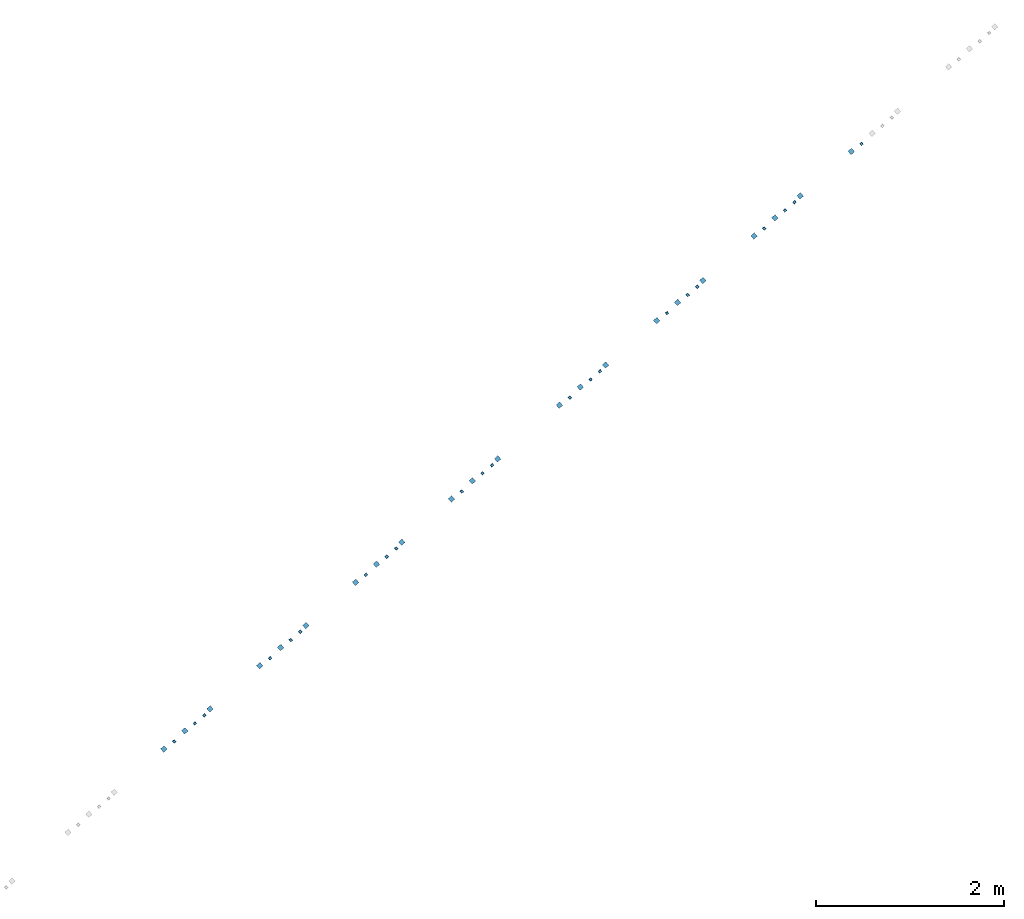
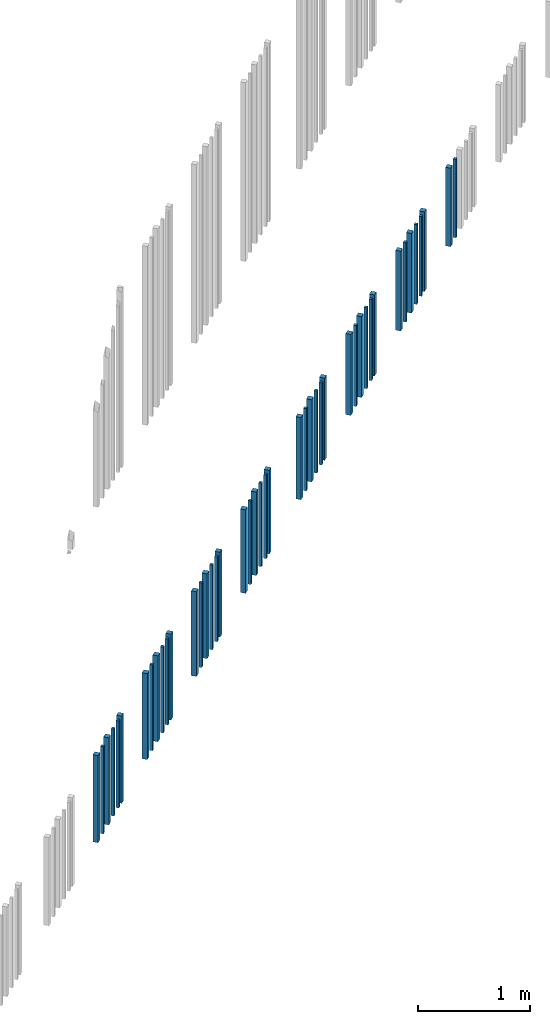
# One storey, part 91 of 124: 44 walls.
"""IFC2X3 building model written with IfcOpenShell, lengths in millimetres."""

from ifc_helpers import new_model, entity, si_unit, converted_unit, derived_unit, money_unit, direction, frame, origin_with_axes, place, context, subcontext, project, spatial, faceted_brep, material, type_object, element, save


model = new_model("IFC2X3")

# Units and contexts
model_context = context("Model", 3, precision=1e-05, world=origin_with_axes(), true_north=direction((0.0, 1.0)))
body_context = subcontext(model_context, "Body", "Model", "MODEL_VIEW")
ifc_project = project(units=[si_unit("LENGTHUNIT", "METRE", prefix="MILLI"), si_unit("AREAUNIT", "SQUARE_METRE"), si_unit("VOLUMEUNIT", "CUBIC_METRE"), converted_unit("PLANEANGLEUNIT", "DEGREE", entity("IfcPlaneAngleMeasure", 0.0174532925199), si_unit("PLANEANGLEUNIT", "RADIAN"), dimensions=[0, 0, 0, 0, 0, 0, 0]), si_unit("SOLIDANGLEUNIT", "STERADIAN"), money_unit("EUR"), converted_unit("TIMEUNIT", "Year", entity("IfcTimeMeasure", 31556926.0), si_unit("TIMEUNIT", "SECOND"), dimensions=[0, 0, 1, 0, 0, 0, 0]), si_unit("MASSUNIT", "GRAM", prefix="KILO"), si_unit("THERMODYNAMICTEMPERATUREUNIT", "DEGREE_CELSIUS"), si_unit("LUMINOUSINTENSITYUNIT", "LUMEN"), si_unit("ENERGYUNIT", "JOULE", prefix="MEGA"), derived_unit("THERMALCONDUCTANCEUNIT", [(si_unit("POWERUNIT", "WATT"), 1), (si_unit("LENGTHUNIT", "METRE"), -1), (si_unit("THERMODYNAMICTEMPERATUREUNIT", "KELVIN"), -1)]), derived_unit("SPECIFICHEATCAPACITYUNIT", [(si_unit("ENERGYUNIT", "JOULE"), 1), (si_unit("MASSUNIT", "GRAM", prefix="KILO"), -1), (si_unit("THERMODYNAMICTEMPERATUREUNIT", "KELVIN"), -1)]), derived_unit("MASSDENSITYUNIT", [(si_unit("MASSUNIT", "GRAM", prefix="KILO"), 1), (si_unit("VOLUMEUNIT", "CUBIC_METRE"), -1)])], contexts=[model_context])

# Site, building, storey
site_placement = place(None, origin_with_axes())
site = spatial("IfcSite", under=ifc_project, at=site_placement, Name="Site", CompositionType="ELEMENT")
building_placement = place(site_placement, origin_with_axes())
building = spatial("IfcBuilding", under=site, at=building_placement, Name="Building", CompositionType="ELEMENT")
storey_placement = place(building_placement, frame((0.0, 0.0, -1615.0), z_axis=(0.0, 0.0, 1.0), x_axis=(1.0, 0.0, 0.0)))
storey = spatial("IfcBuildingStorey", under=building, at=storey_placement, Name="0  korrus", CompositionType="ELEMENT", Elevation=-1615.0)

# Walls
ifc_material = material(Name="Site specified")
wall_type = type_object("IfcWallType", Name="Puitfassaadi ribistik", PredefinedType="NOTDEFINED")
wall_1_placement = place(storey_placement, frame((131601.831054, 84436.1421931, 5951.42184627), z_axis=(0.0, 0.0, 1.0), x_axis=(0.754709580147, 0.656059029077, 0.0)))
element("IfcWall", 1, at=wall_1_placement, inside=storey, type_object=wall_type, material=ifc_material, Name="Site specified", context=body_context, shape_type="Brep", body=[
    faceted_brep([(25.0, 25.0, 869.578153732), (25.0, 25.0, 0.0), (-25.0, 25.0, 0.0), (-25.0, 25.0, 869.578153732), (25.0, -25.0, 869.578153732), (25.0, -25.0, 0.0), (-25.0, -25.0, 0.0), (-25.0, -25.0, 869.578153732)], [[[0, 1, 2, 3]], [[4, 5, 1, 0]], [[2, 1, 5, 6]], [[3, 2, 6, 7]], [[4, 0, 3, 7]], [[7, 6, 5, 4]]]),
])
wall_2_placement = place(storey_placement, frame((131710.935376, 84516.4099906, 5951.42184627), z_axis=(0.0, 0.0, 1.0), x_axis=(0.754709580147, 0.656059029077, 0.0)))
element("IfcWall", 2, at=wall_2_placement, inside=storey, type_object=wall_type, material=ifc_material, Name="Site specified", context=body_context, shape_type="Brep", body=[
    faceted_brep([(14.0, 14.0, 869.578153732), (14.0, 14.0, 0.0), (-14.0, 14.0, 0.0), (-14.0, 14.0, 869.578153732), (14.0, -14.0, 869.578153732), (14.0, -14.0, 0.0), (-14.0, -14.0, 0.0), (-14.0, -14.0, 869.578153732)], [[[0, 1, 2, 3]], [[4, 5, 1, 0]], [[2, 1, 5, 6]], [[3, 2, 6, 7]], [[4, 0, 3, 7]], [[7, 6, 5, 4]]]),
])
wall_3_placement = place(storey_placement, frame((129643.031127, 82718.8082509, 5924.73924498), z_axis=(0.0, 0.0, 1.0), x_axis=(0.754709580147, 0.656059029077, 0.0)))
element("IfcWall", 3, at=wall_3_placement, inside=storey, type_object=wall_type, material=ifc_material, Name="Site specified", context=body_context, shape_type="Brep", body=[
    faceted_brep([(14.0, 14.0, 896.260755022), (14.0, 14.0, 0.0), (-14.0, 14.0, 0.0), (-14.0, 14.0, 896.260755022), (14.0, -14.0, 896.260755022), (14.0, -14.0, 0.0), (-14.0, -14.0, 0.0), (-14.0, -14.0, 896.260755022)], [[[0, 1, 2, 3]], [[4, 5, 1, 0]], [[2, 1, 5, 6]], [[3, 2, 6, 7]], [[4, 0, 3, 7]], [[7, 6, 5, 4]]]),
])
for number, where, z_axis, x_axis, name in (
    (4, (125820.75992, 79410.7337248, 5870.49944193), (0.0, 0.0, 1.0), (0.754709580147, 0.656059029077, 0.0), "Site specified"),
    (5, (125552.079058, 79177.1730147, 5870.49944193), (0.0, 0.0, 1.0), (0.754709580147, 0.656059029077, 0.0), "Site specified"),
):
    element("IfcWall", number, at=place(storey_placement, frame(where, z_axis=z_axis, x_axis=x_axis)), inside=storey, type_object=wall_type, material=ifc_material, Name=name, context=body_context, shape_type="Brep", body=[
        faceted_brep([(25.0, 25.0, 950.500558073), (25.0, 25.0, 0.0), (-25.0, 25.0, 0.0), (-25.0, 25.0, 950.500558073), (25.0, -25.0, 950.500558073), (25.0, -25.0, 0.0), (-25.0, -25.0, 0.0), (-25.0, -25.0, 950.500558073)], [[[0, 1, 2, 3]], [[4, 5, 1, 0]], [[2, 1, 5, 6]], [[3, 2, 6, 7]], [[4, 0, 3, 7]], [[7, 6, 5, 4]]]),
    ])
wall_4_placement = place(storey_placement, frame((131823.715669, 84629.0235462, 5951.42184627), z_axis=(0.0, 0.0, 1.0), x_axis=(0.754709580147, 0.656059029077, 0.0)))
element("IfcWall", 6, at=wall_4_placement, inside=storey, type_object=wall_type, material=ifc_material, Name="Site specified", context=body_context, shape_type="Brep", body=[
    faceted_brep([(25.0, 25.0, 869.578153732), (25.0, 25.0, 0.0), (-25.0, 25.0, 0.0), (-25.0, 25.0, 869.578153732), (25.0, -25.0, 869.578153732), (25.0, -25.0, 0.0), (-25.0, -25.0, 0.0), (-25.0, -25.0, 869.578153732)], [[[0, 1, 2, 3]], [[4, 5, 1, 0]], [[2, 1, 5, 6]], [[3, 2, 6, 7]], [[4, 0, 3, 7]], [[7, 6, 5, 4]]]),
])
wall_5_placement = place(storey_placement, frame((132744.887501, 85415.2108604, 5964.67565034), z_axis=(0.0, 0.0, 1.0), x_axis=(0.754709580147, 0.656059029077, 0.0)))
element("IfcWall", 7, at=wall_5_placement, inside=storey, type_object=wall_type, material=ifc_material, Name="Site specified", context=body_context, shape_type="Brep", body=[
    faceted_brep([(14.0, 14.0, 856.32434966), (14.0, 14.0, 0.0), (-14.0, 14.0, 0.0), (-14.0, 14.0, 856.32434966), (14.0, -14.0, 856.32434966), (14.0, -14.0, 0.0), (-14.0, -14.0, 0.0), (-14.0, -14.0, 856.32434966)], [[[0, 1, 2, 3]], [[4, 5, 1, 0]], [[2, 1, 5, 6]], [[3, 2, 6, 7]], [[4, 0, 3, 7]], [[7, 6, 5, 4]]]),
])
wall_6_placement = place(storey_placement, frame((132635.783179, 85334.943063, 5964.67565034), z_axis=(0.0, 0.0, 1.0), x_axis=(0.754709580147, 0.656059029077, 0.0)))
element("IfcWall", 8, at=wall_6_placement, inside=storey, type_object=wall_type, material=ifc_material, Name="Site specified", context=body_context, shape_type="Brep", body=[
    faceted_brep([(25.0, 25.0, 856.32434966), (25.0, 25.0, 0.0), (-25.0, 25.0, 0.0), (-25.0, 25.0, 856.32434966), (25.0, -25.0, 856.32434966), (25.0, -25.0, 0.0), (-25.0, -25.0, 0.0), (-25.0, -25.0, 856.32434966)], [[[0, 1, 2, 3]], [[4, 5, 1, 0]], [[2, 1, 5, 6]], [[3, 2, 6, 7]], [[4, 0, 3, 7]], [[7, 6, 5, 4]]]),
])
wall_7_placement = place(storey_placement, frame((132092.396531, 84862.5842564, 5951.42184627), z_axis=(0.0, 0.0, 1.0), x_axis=(0.754709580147, 0.656059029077, 0.0)))
element("IfcWall", 9, at=wall_7_placement, inside=storey, type_object=wall_type, material=ifc_material, Name="Site specified", context=body_context, shape_type="Brep", body=[
    faceted_brep([(25.0, 25.0, 869.578153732), (25.0, 25.0, 0.0), (-25.0, 25.0, 0.0), (-25.0, 25.0, 869.578153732), (25.0, -25.0, 869.578153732), (25.0, -25.0, 0.0), (-25.0, -25.0, 0.0), (-25.0, -25.0, 869.578153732)], [[[0, 1, 2, 3]], [[4, 5, 1, 0]], [[2, 1, 5, 6]], [[3, 2, 6, 7]], [[4, 0, 3, 7]], [[7, 6, 5, 4]]]),
])
for number, where, z_axis, x_axis, name in (
    (10, (131932.065262, 84708.6352671, 5951.42184627), (0.0, 0.0, 1.0), (0.754709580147, 0.656059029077, 0.0), "Site specified"),
    (11, (132032.441635, 84795.8911174, 5951.42184627), (0.0, 0.0, 1.0), (0.754709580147, 0.656059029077, 0.0), "Site specified"),
):
    element("IfcWall", number, at=place(storey_placement, frame(where, z_axis=z_axis, x_axis=x_axis)), inside=storey, type_object=wall_type, material=ifc_material, Name=name, context=body_context, shape_type="Brep", body=[
        faceted_brep([(14.0, 14.0, 869.578153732), (14.0, 14.0, 0.0), (-14.0, 14.0, 0.0), (-14.0, 14.0, 869.578153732), (14.0, -14.0, 869.578153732), (14.0, -14.0, 0.0), (-14.0, -14.0, 0.0), (-14.0, -14.0, 869.578153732)], [[[0, 1, 2, 3]], [[4, 5, 1, 0]], [[2, 1, 5, 6]], [[3, 2, 6, 7]], [[4, 0, 3, 7]], [[7, 6, 5, 4]]]),
    ])
wall_8_placement = place(storey_placement, frame((125760.805024, 79344.0405859, 5870.49944193), z_axis=(0.0, 0.0, 1.0), x_axis=(0.754709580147, 0.656059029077, 0.0)))
element("IfcWall", 12, at=wall_8_placement, inside=storey, type_object=wall_type, material=ifc_material, Name="Site specified", context=body_context, shape_type="Brep", body=[
    faceted_brep([(14.0, 14.0, 950.500558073), (14.0, 14.0, 0.0), (-14.0, 14.0, 0.0), (-14.0, 14.0, 950.500558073), (14.0, -14.0, 950.500558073), (14.0, -14.0, 0.0), (-14.0, -14.0, 0.0), (-14.0, -14.0, 950.500558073)], [[[0, 1, 2, 3]], [[4, 5, 1, 0]], [[2, 1, 5, 6]], [[3, 2, 6, 7]], [[4, 0, 3, 7]], [[7, 6, 5, 4]]]),
])
wall_9_placement = place(storey_placement, frame((125330.194443, 78984.2916616, 5870.49944193), z_axis=(0.0, 0.0, 1.0), x_axis=(0.754709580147, 0.656059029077, 0.0)))
element("IfcWall", 13, at=wall_9_placement, inside=storey, type_object=wall_type, material=ifc_material, Name="Site specified", context=body_context, shape_type="Brep", body=[
    faceted_brep([(25.0, 25.0, 950.500558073), (25.0, 25.0, 0.0), (-25.0, 25.0, 0.0), (-25.0, 25.0, 950.500558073), (25.0, -25.0, 950.500558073), (25.0, -25.0, 0.0), (-25.0, -25.0, 0.0), (-25.0, -25.0, 950.500558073)], [[[0, 1, 2, 3]], [[4, 5, 1, 0]], [[2, 1, 5, 6]], [[3, 2, 6, 7]], [[4, 0, 3, 7]], [[7, 6, 5, 4]]]),
])
for number, where, z_axis, x_axis, name in (
    (14, (125439.298765, 79064.559459, 5870.49944193), (0.0, 0.0, 1.0), (0.754709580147, 0.656059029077, 0.0), "Site specified"),
    (15, (125660.42865, 79256.7847356, 5870.49944193), (0.0, 0.0, 1.0), (0.754709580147, 0.656059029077, 0.0), "Site specified"),
):
    element("IfcWall", number, at=place(storey_placement, frame(where, z_axis=z_axis, x_axis=x_axis)), inside=storey, type_object=wall_type, material=ifc_material, Name=name, context=body_context, shape_type="Brep", body=[
        faceted_brep([(14.0, 14.0, 950.500558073), (14.0, 14.0, 0.0), (-14.0, 14.0, 0.0), (-14.0, 14.0, 950.500558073), (14.0, -14.0, 950.500558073), (14.0, -14.0, 0.0), (-14.0, -14.0, 0.0), (-14.0, -14.0, 950.500558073)], [[[0, 1, 2, 3]], [[4, 5, 1, 0]], [[2, 1, 5, 6]], [[3, 2, 6, 7]], [[4, 0, 3, 7]], [[7, 6, 5, 4]]]),
    ])
wall_10_placement = place(storey_placement, frame((128608.652857, 81834.2120826, 5909.93891712), z_axis=(0.0, 0.0, 1.0), x_axis=(0.754709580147, 0.656059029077, 0.0)))
element("IfcWall", 16, at=wall_10_placement, inside=storey, type_object=wall_type, material=ifc_material, Name="Site specified", context=body_context, shape_type="Brep", body=[
    faceted_brep([(25.0, 25.0, 911.061082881), (25.0, 25.0, 0.0), (-25.0, 25.0, 0.0), (-25.0, 25.0, 911.061082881), (25.0, -25.0, 911.061082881), (25.0, -25.0, 0.0), (-25.0, -25.0, 0.0), (-25.0, -25.0, 911.061082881)], [[[0, 1, 2, 3]], [[4, 5, 1, 0]], [[2, 1, 5, 6]], [[3, 2, 6, 7]], [[4, 0, 3, 7]], [[7, 6, 5, 4]]]),
])
wall_11_placement = place(storey_placement, frame((128717.00245, 81913.8238035, 5909.93891712), z_axis=(0.0, 0.0, 1.0), x_axis=(0.754709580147, 0.656059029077, 0.0)))
element("IfcWall", 17, at=wall_11_placement, inside=storey, type_object=wall_type, material=ifc_material, Name="Site specified", context=body_context, shape_type="Brep", body=[
    faceted_brep([(14.0, 14.0, 911.061082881), (14.0, 14.0, 0.0), (-14.0, 14.0, 0.0), (-14.0, 14.0, 911.061082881), (14.0, -14.0, 911.061082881), (14.0, -14.0, 0.0), (-14.0, -14.0, 0.0), (-14.0, -14.0, 911.061082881)], [[[0, 1, 2, 3]], [[4, 5, 1, 0]], [[2, 1, 5, 6]], [[3, 2, 6, 7]], [[4, 0, 3, 7]], [[7, 6, 5, 4]]]),
])
for number, where, z_axis, x_axis, name in (
    (18, (128386.768243, 81641.3307295, 5909.93891712), (0.0, 0.0, 1.0), (0.754709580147, 0.656059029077, 0.0), "Site specified"),
    (19, (128877.33372, 82067.7727927, 5909.93891712), (0.0, 0.0, 1.0), (0.754709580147, 0.656059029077, 0.0), "Site specified"),
):
    element("IfcWall", number, at=place(storey_placement, frame(where, z_axis=z_axis, x_axis=x_axis)), inside=storey, type_object=wall_type, material=ifc_material, Name=name, context=body_context, shape_type="Brep", body=[
        faceted_brep([(25.0, 25.0, 911.061082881), (25.0, 25.0, 0.0), (-25.0, 25.0, 0.0), (-25.0, 25.0, 911.061082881), (25.0, -25.0, 911.061082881), (25.0, -25.0, 0.0), (-25.0, -25.0, 0.0), (-25.0, -25.0, 911.061082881)], [[[0, 1, 2, 3]], [[4, 5, 1, 0]], [[2, 1, 5, 6]], [[3, 2, 6, 7]], [[4, 0, 3, 7]], [[7, 6, 5, 4]]]),
    ])
for number, where, z_axis, x_axis, name in (
    (20, (128817.378823, 82001.0796538, 5909.93891712), (0.0, 0.0, 1.0), (0.754709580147, 0.656059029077, 0.0), "Site specified"),
    (21, (128495.872565, 81721.5985269, 5909.93891712), (0.0, 0.0, 1.0), (0.754709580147, 0.656059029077, 0.0), "Site specified"),
):
    element("IfcWall", number, at=place(storey_placement, frame(where, z_axis=z_axis, x_axis=x_axis)), inside=storey, type_object=wall_type, material=ifc_material, Name=name, context=body_context, shape_type="Brep", body=[
        faceted_brep([(14.0, 14.0, 911.061082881), (14.0, 14.0, 0.0), (-14.0, 14.0, 0.0), (-14.0, 14.0, 911.061082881), (14.0, -14.0, 911.061082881), (14.0, -14.0, 0.0), (-14.0, -14.0, 0.0), (-14.0, -14.0, 911.061082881)], [[[0, 1, 2, 3]], [[4, 5, 1, 0]], [[2, 1, 5, 6]], [[3, 2, 6, 7]], [[4, 0, 3, 7]], [[7, 6, 5, 4]]]),
    ])
wall_12_placement = place(storey_placement, frame((126349.052376, 79869.9713508, 5883.64367736), z_axis=(0.0, 0.0, 1.0), x_axis=(0.754709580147, 0.656059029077, 0.0)))
element("IfcWall", 22, at=wall_12_placement, inside=storey, type_object=wall_type, material=ifc_material, Name="Site specified", context=body_context, shape_type="Brep", body=[
    faceted_brep([(25.0, 25.0, 937.356322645), (25.0, 25.0, 0.0), (-25.0, 25.0, 0.0), (-25.0, 25.0, 937.356322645), (25.0, -25.0, 937.356322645), (25.0, -25.0, 0.0), (-25.0, -25.0, 0.0), (-25.0, -25.0, 937.356322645)], [[[0, 1, 2, 3]], [[4, 5, 1, 0]], [[2, 1, 5, 6]], [[3, 2, 6, 7]], [[4, 0, 3, 7]], [[7, 6, 5, 4]]]),
])
wall_13_placement = place(storey_placement, frame((130998.48951, 83897.0902476, 5938.08214756), z_axis=(0.0, 0.0, 1.0), x_axis=(0.754709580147, 0.656059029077, 0.0)))
element("IfcWall", 23, at=wall_13_placement, inside=storey, type_object=wall_type, material=ifc_material, Name="Site specified", context=body_context, shape_type="Brep", body=[
    faceted_brep([(14.0, 14.0, 882.917852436), (14.0, 14.0, 0.0), (-14.0, 14.0, 0.0), (-14.0, 14.0, 882.917852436), (14.0, -14.0, 882.917852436), (14.0, -14.0, 0.0), (-14.0, -14.0, 0.0), (-14.0, -14.0, 882.917852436)], [[[0, 1, 2, 3]], [[4, 5, 1, 0]], [[2, 1, 5, 6]], [[3, 2, 6, 7]], [[4, 0, 3, 7]], [[7, 6, 5, 4]]]),
])
for number, where, z_axis, x_axis, name in (
    (24, (126458.156698, 79950.2391483, 5883.64367736), (0.0, 0.0, 1.0), (0.754709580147, 0.656059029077, 0.0), "Site specified"),
    (25, (126779.662957, 80229.7202751, 5883.64367736), (0.0, 0.0, 1.0), (0.754709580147, 0.656059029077, 0.0), "Site specified"),
    (26, (126679.286584, 80142.4644248, 5883.64367736), (0.0, 0.0, 1.0), (0.754709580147, 0.656059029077, 0.0), "Site specified"),
):
    element("IfcWall", number, at=place(storey_placement, frame(where, z_axis=z_axis, x_axis=x_axis)), inside=storey, type_object=wall_type, material=ifc_material, Name=name, context=body_context, shape_type="Brep", body=[
        faceted_brep([(14.0, 14.0, 937.356322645), (14.0, 14.0, 0.0), (-14.0, 14.0, 0.0), (-14.0, 14.0, 937.356322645), (14.0, -14.0, 937.356322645), (14.0, -14.0, 0.0), (-14.0, -14.0, 0.0), (-14.0, -14.0, 937.356322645)], [[[0, 1, 2, 3]], [[4, 5, 1, 0]], [[2, 1, 5, 6]], [[3, 2, 6, 7]], [[4, 0, 3, 7]], [[7, 6, 5, 4]]]),
    ])
for number, where, z_axis, x_axis, name in (
    (27, (126839.617853, 80296.4134141, 5883.64367736), (0.0, 0.0, 1.0), (0.754709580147, 0.656059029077, 0.0), "Site specified"),
    (28, (126570.936991, 80062.8527039, 5883.64367736), (0.0, 0.0, 1.0), (0.754709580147, 0.656059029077, 0.0), "Site specified"),
):
    element("IfcWall", number, at=place(storey_placement, frame(where, z_axis=z_axis, x_axis=x_axis)), inside=storey, type_object=wall_type, material=ifc_material, Name=name, context=body_context, shape_type="Brep", body=[
        faceted_brep([(25.0, 25.0, 937.356322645), (25.0, 25.0, 0.0), (-25.0, 25.0, 0.0), (-25.0, 25.0, 937.356322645), (25.0, -25.0, 937.356322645), (25.0, -25.0, 0.0), (-25.0, -25.0, 0.0), (-25.0, -25.0, 937.356322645)], [[[0, 1, 2, 3]], [[4, 5, 1, 0]], [[2, 1, 5, 6]], [[3, 2, 6, 7]], [[4, 0, 3, 7]], [[7, 6, 5, 4]]]),
    ])
wall_14_placement = place(storey_placement, frame((129864.161012, 82911.0335275, 5924.73924498), z_axis=(0.0, 0.0, 1.0), x_axis=(0.754709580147, 0.656059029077, 0.0)))
element("IfcWall", 29, at=wall_14_placement, inside=storey, type_object=wall_type, material=ifc_material, Name="Site specified", context=body_context, shape_type="Brep", body=[
    faceted_brep([(14.0, 14.0, 896.260755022), (14.0, 14.0, 0.0), (-14.0, 14.0, 0.0), (-14.0, 14.0, 896.260755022), (14.0, -14.0, 896.260755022), (14.0, -14.0, 0.0), (-14.0, -14.0, 0.0), (-14.0, -14.0, 896.260755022)], [[[0, 1, 2, 3]], [[4, 5, 1, 0]], [[2, 1, 5, 6]], [[3, 2, 6, 7]], [[4, 0, 3, 7]], [[7, 6, 5, 4]]]),
])
wall_15_placement = place(storey_placement, frame((131058.444406, 83963.7833866, 5938.08214756), z_axis=(0.0, 0.0, 1.0), x_axis=(0.754709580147, 0.656059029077, 0.0)))
element("IfcWall", 30, at=wall_15_placement, inside=storey, type_object=wall_type, material=ifc_material, Name="Site specified", context=body_context, shape_type="Brep", body=[
    faceted_brep([(25.0, 25.0, 882.917852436), (25.0, 25.0, 0.0), (-25.0, 25.0, 0.0), (-25.0, 25.0, 882.917852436), (25.0, -25.0, 882.917852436), (25.0, -25.0, 0.0), (-25.0, -25.0, 0.0), (-25.0, -25.0, 882.917852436)], [[[0, 1, 2, 3]], [[4, 5, 1, 0]], [[2, 1, 5, 6]], [[3, 2, 6, 7]], [[4, 0, 3, 7]], [[7, 6, 5, 4]]]),
])
wall_16_placement = place(storey_placement, frame((127798.52089, 81115.3999644, 5896.79242539), z_axis=(0.0, 0.0, 1.0), x_axis=(0.754709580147, 0.656059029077, 0.0)))
element("IfcWall", 31, at=wall_16_placement, inside=storey, type_object=wall_type, material=ifc_material, Name="Site specified", context=body_context, shape_type="Brep", body=[
    faceted_brep([(14.0, 14.0, 924.207574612), (14.0, 14.0, 0.0), (-14.0, 14.0, 0.0), (-14.0, 14.0, 924.207574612), (14.0, -14.0, 924.207574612), (14.0, -14.0, 0.0), (-14.0, -14.0, 0.0), (-14.0, -14.0, 924.207574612)], [[[0, 1, 2, 3]], [[4, 5, 1, 0]], [[2, 1, 5, 6]], [[3, 2, 6, 7]], [[4, 0, 3, 7]], [[7, 6, 5, 4]]]),
])
wall_17_placement = place(storey_placement, frame((127367.910309, 80755.6510401, 5896.79242539), z_axis=(0.0, 0.0, 1.0), x_axis=(0.754709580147, 0.656059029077, 0.0)))
element("IfcWall", 32, at=wall_17_placement, inside=storey, type_object=wall_type, material=ifc_material, Name="Site specified", context=body_context, shape_type="Brep", body=[
    faceted_brep([(25.0, 25.0, 924.207574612), (25.0, 25.0, 0.0), (-25.0, 25.0, 0.0), (-25.0, 25.0, 924.207574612), (25.0, -25.0, 924.207574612), (25.0, -25.0, 0.0), (-25.0, -25.0, 0.0), (-25.0, -25.0, 924.207574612)], [[[0, 1, 2, 3]], [[4, 5, 1, 0]], [[2, 1, 5, 6]], [[3, 2, 6, 7]], [[4, 0, 3, 7]], [[7, 6, 5, 4]]]),
])
for number, where, z_axis, x_axis, name in (
    (33, (127477.014632, 80835.9188375, 5896.79242539), (0.0, 0.0, 1.0), (0.754709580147, 0.656059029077, 0.0), "Site specified"),
    (34, (127698.144517, 81028.1441141, 5896.79242539), (0.0, 0.0, 1.0), (0.754709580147, 0.656059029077, 0.0), "Site specified"),
):
    element("IfcWall", number, at=place(storey_placement, frame(where, z_axis=z_axis, x_axis=x_axis)), inside=storey, type_object=wall_type, material=ifc_material, Name=name, context=body_context, shape_type="Brep", body=[
        faceted_brep([(14.0, 14.0, 924.207574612), (14.0, 14.0, 0.0), (-14.0, 14.0, 0.0), (-14.0, 14.0, 924.207574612), (14.0, -14.0, 924.207574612), (14.0, -14.0, 0.0), (-14.0, -14.0, 0.0), (-14.0, -14.0, 924.207574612)], [[[0, 1, 2, 3]], [[4, 5, 1, 0]], [[2, 1, 5, 6]], [[3, 2, 6, 7]], [[4, 0, 3, 7]], [[7, 6, 5, 4]]]),
    ])
wall_18_placement = place(storey_placement, frame((130567.878929, 83537.3413233, 5938.08214756), z_axis=(0.0, 0.0, 1.0), x_axis=(0.754709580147, 0.656059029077, 0.0)))
element("IfcWall", 35, at=wall_18_placement, inside=storey, type_object=wall_type, material=ifc_material, Name="Site specified", context=body_context, shape_type="Brep", body=[
    faceted_brep([(25.0, 25.0, 882.917852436), (25.0, 25.0, 0.0), (-25.0, 25.0, 0.0), (-25.0, 25.0, 882.917852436), (25.0, -25.0, 882.917852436), (25.0, -25.0, 0.0), (-25.0, -25.0, 0.0), (-25.0, -25.0, 882.917852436)], [[[0, 1, 2, 3]], [[4, 5, 1, 0]], [[2, 1, 5, 6]], [[3, 2, 6, 7]], [[4, 0, 3, 7]], [[7, 6, 5, 4]]]),
])
wall_19_placement = place(storey_placement, frame((130898.113137, 83809.8343973, 5938.08214756), z_axis=(0.0, 0.0, 1.0), x_axis=(0.754709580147, 0.656059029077, 0.0)))
element("IfcWall", 36, at=wall_19_placement, inside=storey, type_object=wall_type, material=ifc_material, Name="Site specified", context=body_context, shape_type="Brep", body=[
    faceted_brep([(14.0, 14.0, 882.917852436), (14.0, 14.0, 0.0), (-14.0, 14.0, 0.0), (-14.0, 14.0, 882.917852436), (14.0, -14.0, 882.917852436), (14.0, -14.0, 0.0), (-14.0, -14.0, 0.0), (-14.0, -14.0, 882.917852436)], [[[0, 1, 2, 3]], [[4, 5, 1, 0]], [[2, 1, 5, 6]], [[3, 2, 6, 7]], [[4, 0, 3, 7]], [[7, 6, 5, 4]]]),
])
wall_20_placement = place(storey_placement, frame((129755.811419, 82831.4218066, 5924.73924498), z_axis=(0.0, 0.0, 1.0), x_axis=(0.754709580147, 0.656059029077, 0.0)))
element("IfcWall", 37, at=wall_20_placement, inside=storey, type_object=wall_type, material=ifc_material, Name="Site specified", context=body_context, shape_type="Brep", body=[
    faceted_brep([(25.0, 25.0, 896.260755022), (25.0, 25.0, 0.0), (-25.0, 25.0, 0.0), (-25.0, 25.0, 896.260755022), (25.0, -25.0, 896.260755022), (25.0, -25.0, 0.0), (-25.0, -25.0, 0.0), (-25.0, -25.0, 896.260755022)], [[[0, 1, 2, 3]], [[4, 5, 1, 0]], [[2, 1, 5, 6]], [[3, 2, 6, 7]], [[4, 0, 3, 7]], [[7, 6, 5, 4]]]),
])
wall_21_placement = place(storey_placement, frame((127858.475786, 81182.0931033, 5896.79242539), z_axis=(0.0, 0.0, 1.0), x_axis=(0.754709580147, 0.656059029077, 0.0)))
element("IfcWall", 38, at=wall_21_placement, inside=storey, type_object=wall_type, material=ifc_material, Name="Site specified", context=body_context, shape_type="Brep", body=[
    faceted_brep([(25.0, 25.0, 924.207574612), (25.0, 25.0, 0.0), (-25.0, 25.0, 0.0), (-25.0, 25.0, 924.207574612), (25.0, -25.0, 924.207574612), (25.0, -25.0, 0.0), (-25.0, -25.0, 0.0), (-25.0, -25.0, 924.207574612)], [[[0, 1, 2, 3]], [[4, 5, 1, 0]], [[2, 1, 5, 6]], [[3, 2, 6, 7]], [[4, 0, 3, 7]], [[7, 6, 5, 4]]]),
])
wall_22_placement = place(storey_placement, frame((130789.763544, 83730.2226764, 5938.08214756), z_axis=(0.0, 0.0, 1.0), x_axis=(0.754709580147, 0.656059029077, 0.0)))
element("IfcWall", 39, at=wall_22_placement, inside=storey, type_object=wall_type, material=ifc_material, Name="Site specified", context=body_context, shape_type="Brep", body=[
    faceted_brep([(25.0, 25.0, 882.917852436), (25.0, 25.0, 0.0), (-25.0, 25.0, 0.0), (-25.0, 25.0, 882.917852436), (25.0, -25.0, 882.917852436), (25.0, -25.0, 0.0), (-25.0, -25.0, 0.0), (-25.0, -25.0, 882.917852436)], [[[0, 1, 2, 3]], [[4, 5, 1, 0]], [[2, 1, 5, 6]], [[3, 2, 6, 7]], [[4, 0, 3, 7]], [[7, 6, 5, 4]]]),
])
wall_23_placement = place(storey_placement, frame((130024.492282, 83064.9825167, 5924.73924498), z_axis=(0.0, 0.0, 1.0), x_axis=(0.754709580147, 0.656059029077, 0.0)))
element("IfcWall", 40, at=wall_23_placement, inside=storey, type_object=wall_type, material=ifc_material, Name="Site specified", context=body_context, shape_type="Brep", body=[
    faceted_brep([(25.0, 25.0, 896.260755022), (25.0, 25.0, 0.0), (-25.0, 25.0, 0.0), (-25.0, 25.0, 896.260755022), (25.0, -25.0, 896.260755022), (25.0, -25.0, 0.0), (-25.0, -25.0, 0.0), (-25.0, -25.0, 896.260755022)], [[[0, 1, 2, 3]], [[4, 5, 1, 0]], [[2, 1, 5, 6]], [[3, 2, 6, 7]], [[4, 0, 3, 7]], [[7, 6, 5, 4]]]),
])
wall_24_placement = place(storey_placement, frame((127589.794924, 80948.5323932, 5896.79242539), z_axis=(0.0, 0.0, 1.0), x_axis=(0.754709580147, 0.656059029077, 0.0)))
element("IfcWall", 41, at=wall_24_placement, inside=storey, type_object=wall_type, material=ifc_material, Name="Site specified", context=body_context, shape_type="Brep", body=[
    faceted_brep([(25.0, 25.0, 924.207574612), (25.0, 25.0, 0.0), (-25.0, 25.0, 0.0), (-25.0, 25.0, 924.207574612), (25.0, -25.0, 924.207574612), (25.0, -25.0, 0.0), (-25.0, -25.0, 0.0), (-25.0, -25.0, 924.207574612)], [[[0, 1, 2, 3]], [[4, 5, 1, 0]], [[2, 1, 5, 6]], [[3, 2, 6, 7]], [[4, 0, 3, 7]], [[7, 6, 5, 4]]]),
])
wall_25_placement = place(storey_placement, frame((130676.983252, 83617.6091207, 5938.08214756), z_axis=(0.0, 0.0, 1.0), x_axis=(0.754709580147, 0.656059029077, 0.0)))
element("IfcWall", 42, at=wall_25_placement, inside=storey, type_object=wall_type, material=ifc_material, Name="Site specified", context=body_context, shape_type="Brep", body=[
    faceted_brep([(14.0, 14.0, 882.917852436), (14.0, 14.0, 0.0), (-14.0, 14.0, 0.0), (-14.0, 14.0, 882.917852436), (14.0, -14.0, 882.917852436), (14.0, -14.0, 0.0), (-14.0, -14.0, 0.0), (-14.0, -14.0, 882.917852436)], [[[0, 1, 2, 3]], [[4, 5, 1, 0]], [[2, 1, 5, 6]], [[3, 2, 6, 7]], [[4, 0, 3, 7]], [[7, 6, 5, 4]]]),
])
wall_26_placement = place(storey_placement, frame((129533.926805, 82638.5404535, 5924.73924498), z_axis=(0.0, 0.0, 1.0), x_axis=(0.754709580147, 0.656059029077, 0.0)))
element("IfcWall", 43, at=wall_26_placement, inside=storey, type_object=wall_type, material=ifc_material, Name="Site specified", context=body_context, shape_type="Brep", body=[
    faceted_brep([(25.0, 25.0, 896.260755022), (25.0, 25.0, 0.0), (-25.0, 25.0, 0.0), (-25.0, 25.0, 896.260755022), (25.0, -25.0, 896.260755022), (25.0, -25.0, 0.0), (-25.0, -25.0, 0.0), (-25.0, -25.0, 896.260755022)], [[[0, 1, 2, 3]], [[4, 5, 1, 0]], [[2, 1, 5, 6]], [[3, 2, 6, 7]], [[4, 0, 3, 7]], [[7, 6, 5, 4]]]),
])
wall_27_placement = place(storey_placement, frame((129964.537385, 82998.2893778, 5924.73924498), z_axis=(0.0, 0.0, 1.0), x_axis=(0.754709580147, 0.656059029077, 0.0)))
element("IfcWall", 44, at=wall_27_placement, inside=storey, type_object=wall_type, material=ifc_material, Name="Site specified", context=body_context, shape_type="Brep", body=[
    faceted_brep([(14.0, 14.0, 896.260755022), (14.0, 14.0, 0.0), (-14.0, 14.0, 0.0), (-14.0, 14.0, 896.260755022), (14.0, -14.0, 896.260755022), (14.0, -14.0, 0.0), (-14.0, -14.0, 0.0), (-14.0, -14.0, 896.260755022)], [[[0, 1, 2, 3]], [[4, 5, 1, 0]], [[2, 1, 5, 6]], [[3, 2, 6, 7]], [[4, 0, 3, 7]], [[7, 6, 5, 4]]]),
])

save(model, "model.ifc")
